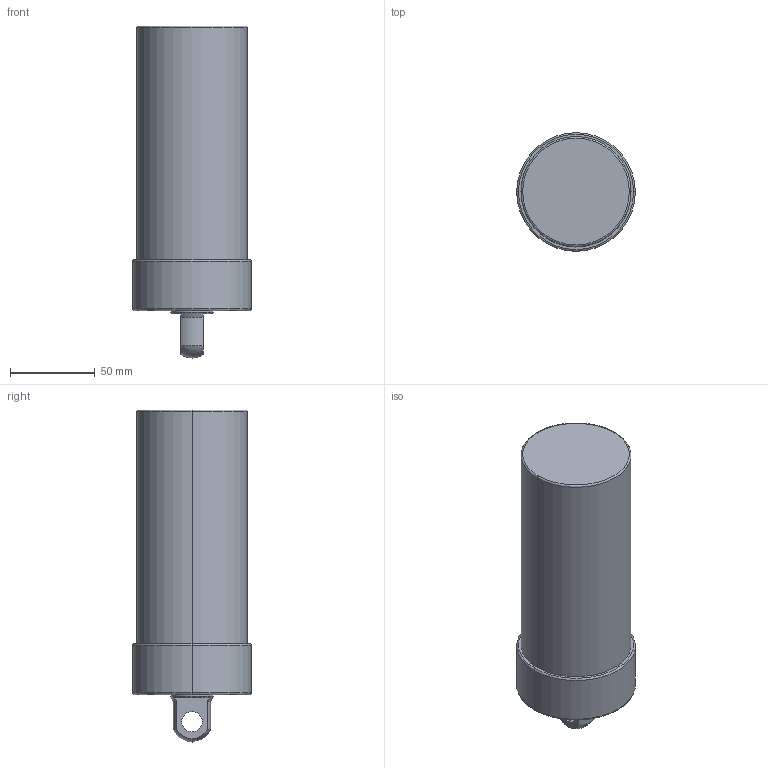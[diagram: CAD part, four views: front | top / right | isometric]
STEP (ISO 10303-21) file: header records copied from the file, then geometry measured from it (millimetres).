
FILE_DESCRIPTION (( 'STEP AP203' ), '1' );
FILE_NAME ('CLLU-065GP-105.STEP', '2020-01-08T00:35:19', ( '' ), ( '' ), 'SwSTEP 2.0', 'SolidWorks 2015', '' );
FILE_SCHEMA (( 'CONFIG_CONTROL_DESIGN' ));
Length unit declared in the file: millimetre
Products named in the file (1): CLLU-065GP-105
Bounding box: 70 x 70 x 196 mm (x, y, z)
Volume: 577465.2 mm3; surface area: 45136 mm2
Topology: 1 solids, 1 shells, 57 faces, 130 edges, 75 vertices
Faces by surface type: cylinder 22, cone 18, plane 9, torus 6, sphere 2
Entity records: 1643 total; most frequent: DIRECTION 308, CARTESIAN_POINT 267, ORIENTED_EDGE 244, AXIS2_PLACEMENT_3D 132, EDGE_CURVE 122, VERTEX_POINT 75, CIRCLE 74, EDGE_LOOP 67
